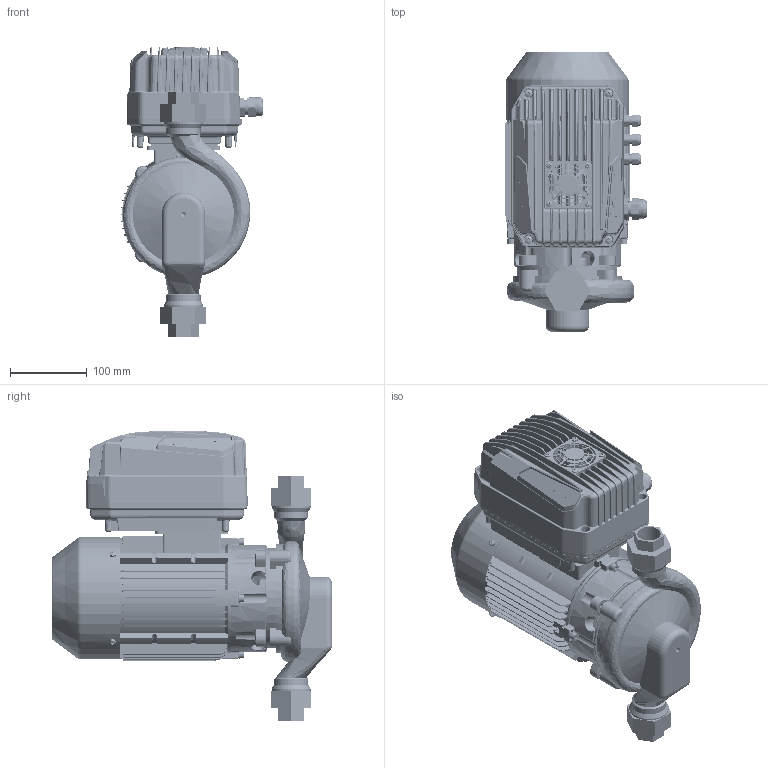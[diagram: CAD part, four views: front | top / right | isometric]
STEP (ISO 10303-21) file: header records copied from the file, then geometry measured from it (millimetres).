
FILE_DESCRIPTION(('STEP AP214'),'1');
FILE_NAME('export.stp','2022-08-29T11:41:45',(' '),(' '),'Spatial InterOp 3D',' ',' ');
FILE_SCHEMA(('AUTOMOTIVE_DESIGN { 1 0 10303 214 1 1 1 1 }'));
Length unit declared in the file: millimetre
Products named in the file (77): W_AE262MDKP80; V_TLAEAP202526; V_PPAE26; 160018; 160002_Valu; V_MKP80_1_N12_650; 160021; 160069___; 160070___; DIN912_M6x20; DIN_EN_ISO_4762-M6X20; DIN127B_M6; DIN_127-B6; 160141; 160137; Assembly_Connection; Connecting_Part; Connection_Strip; plain_washer_grade_a_din_Washer_; hex_nut_style_1_gradeab_din_Hexa; 160039___; 160040___; D20_D47_B14_6204; D20_D47_B14_6204_P1; D20_D47_B14_6204_P2; D20_D47_B14_6204_P3; DIN_471-20X1.2; DIN_472-47X1.75; 160082___; 160083___; 160133; DIN_7985-M5X12; DIN_7985-M4X6; LJ_6204; V_AdapMida205_407; 210588; DIN_7985-M5X8; MIDA_180deg; BASE_MIDA_NASTEC_89; 3005020100_AF0_157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
Assembly tree (128 placements, depth 4):
  W_AE262MDKP80
    V_TLAEAP202526
    V_PPAE26
    V_MKP80_1_N12_650
      160018
        160002_Valu
      160021
        160069___
        160070___
      DIN912_M6x20
        DIN_EN_ISO_4762-M6X20
      DIN127B_M6
        DIN_127-B6
      DIN127B_M6
        DIN_127-B6
      DIN127B_M6
        DIN_127-B6
      DIN127B_M6
        DIN_127-B6
      DIN912_M6x20
        DIN_EN_ISO_4762-M6X20
      DIN912_M6x20
        DIN_EN_ISO_4762-M6X20
      DIN912_M6x20
        DIN_EN_ISO_4762-M6X20
      DIN127B_M6
        DIN_127-B6
      DIN912_M6x20
        DIN_EN_ISO_4762-M6X20
      DIN127B_M6
        DIN_127-B6
      DIN127B_M6
        DIN_127-B6
      DIN127B_M6
        DIN_127-B6
      DIN912_M6x20
        DIN_EN_ISO_4762-M6X20
      DIN912_M6x20
        DIN_EN_ISO_4762-M6X20
      DIN912_M6x20
        DIN_EN_ISO_4762-M6X20
      160141
        160137
      Assembly_Connection
        Connecting_Part
        Connection_Strip  x3
        plain_washer_grade_a_din_Washer_  x12
        hex_nut_style_1_gradeab_din_Hexa  x12
      160039___
      160040___
      D20_D47_B14_6204
        D20_D47_B14_6204_P1
        D20_D47_B14_6204_P2
        D20_D47_B14_6204_P3
      DIN_471-20X1.2  x2
      DIN_472-47X1.75
      D20_D47_B14_6204
        D20_D47_B14_6204_P1
        D20_D47_B14_6204_P2
        D20_D47_B14_6204_P3
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Bounding box: 185.4 x 363.75 x 376 mm (x, y, z)
Volume: 3723540.8 mm3; surface area: 1364247.7 mm2
Topology: 99 solids, 103 shells, 7741 faces, 19588 edges, 12108 vertices
Faces by surface type: plane 2763, cylinder 2353, bspline 1639, cone 583, torus 333, sphere 70
Full cylindrical faces by diameter (mm): 20 x1, 28.5 x2
Entity records: 354616 total; most frequent: CARTESIAN_POINT 169656, ORIENTED_EDGE 35262, DIRECTION 25973, EDGE_CURVE 17644, VERTEX_POINT 10975, AXIS2_PLACEMENT_3D 9635, EDGE_LOOP 7452, LINE 6703
